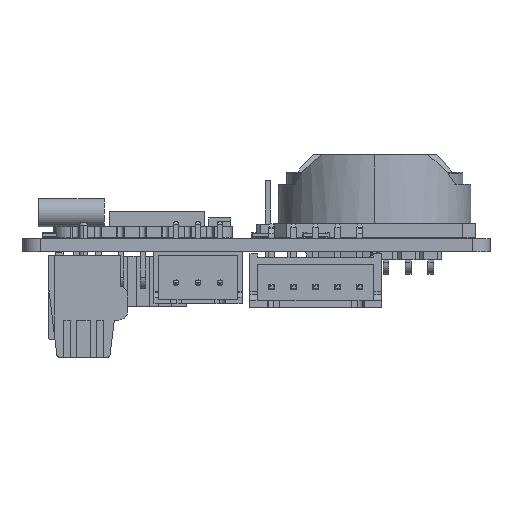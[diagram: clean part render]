
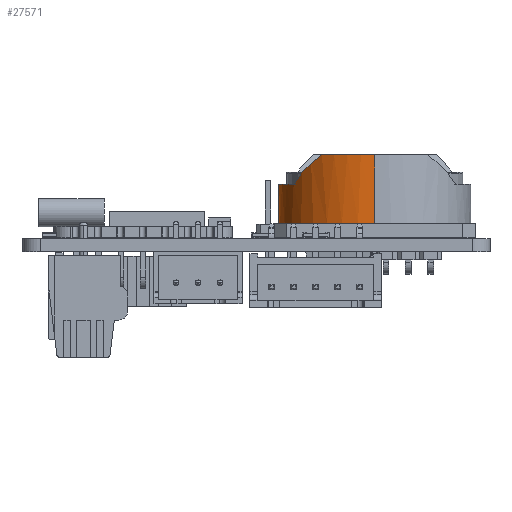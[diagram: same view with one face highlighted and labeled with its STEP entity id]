
A CAD part, left-side view. The second image highlights one B-rep face of the part: STEP entity #27571.
In plain terms, the highlighted cylindrical face has radius 10.9 mm (diameter 21.8 mm), a partial arc.
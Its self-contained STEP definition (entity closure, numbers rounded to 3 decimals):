
#27503 = VERTEX_POINT('',#27504);
#27504 = CARTESIAN_POINT('',(-8.682,3.89,-9.41));
#27510 = EDGE_CURVE('',#27503,#27511,#27513,.T.);
#27511 = VERTEX_POINT('',#27512);
#27512 = CARTESIAN_POINT('',(-6.891,6.957,-9.41));
#27513 = CIRCLE('',#27514,10.9);
#27514 = AXIS2_PLACEMENT_3D('',#27515,#27516,#27517);
#27515 = CARTESIAN_POINT('',(1.5,0.,-9.41));
#27516 = DIRECTION('',(0.,0.,-1.));
#27517 = DIRECTION('',(-1.,0.,0.));
#27571 = ADVANCED_FACE('',(#27572),#27634,.T.);
#27572 = FACE_BOUND('',#27573,.T.);
#27573 = EDGE_LOOP('',(#27574,#27584,#27593,#27602,#27611,#27618,#27619,
    #27627));
#27574 = ORIENTED_EDGE('',*,*,#27575,.T.);
#27575 = EDGE_CURVE('',#27576,#27578,#27580,.T.);
#27576 = VERTEX_POINT('',#27577);
#27577 = CARTESIAN_POINT('',(12.4,0.,-1.61));
#27578 = VERTEX_POINT('',#27579);
#27579 = CARTESIAN_POINT('',(12.4,0.,-9.41));
#27580 = LINE('',#27581,#27582);
#27581 = CARTESIAN_POINT('',(12.4,0.,-1.61));
#27582 = VECTOR('',#27583,1.);
#27583 = DIRECTION('',(-0.,-0.,-1.));
#27584 = ORIENTED_EDGE('',*,*,#27585,.F.);
#27585 = EDGE_CURVE('',#27586,#27578,#27588,.T.);
#27586 = VERTEX_POINT('',#27587);
#27587 = CARTESIAN_POINT('',(10.609,5.987,-9.41));
#27588 = CIRCLE('',#27589,10.9);
#27589 = AXIS2_PLACEMENT_3D('',#27590,#27591,#27592);
#27590 = CARTESIAN_POINT('',(1.5,0.,-9.41));
#27591 = DIRECTION('',(0.,0.,-1.));
#27592 = DIRECTION('',(-1.,0.,0.));
#27593 = ORIENTED_EDGE('',*,*,#27594,.T.);
#27594 = EDGE_CURVE('',#27586,#27595,#27597,.T.);
#27595 = VERTEX_POINT('',#27596);
#27596 = CARTESIAN_POINT('',(7.359,9.191,-6.1));
#27597 = ELLIPSE('',#27598,15.558,10.9);
#27598 = AXIS2_PLACEMENT_3D('',#27599,#27600,#27601);
#27599 = CARTESIAN_POINT('',(1.5,0.,-0.133));
#27600 = DIRECTION('',(0.714,0.,0.701));
#27601 = DIRECTION('',(-0.701,0.,0.714));
#27602 = ORIENTED_EDGE('',*,*,#27603,.T.);
#27603 = EDGE_CURVE('',#27595,#27604,#27606,.T.);
#27604 = VERTEX_POINT('',#27605);
#27605 = CARTESIAN_POINT('',(-3.641,9.611,-6.1));
#27606 = CIRCLE('',#27607,10.9);
#27607 = AXIS2_PLACEMENT_3D('',#27608,#27609,#27610);
#27608 = CARTESIAN_POINT('',(1.5,0.,-6.1));
#27609 = DIRECTION('',(0.,0.,1.));
#27610 = DIRECTION('',(1.,0.,-0.));
#27611 = ORIENTED_EDGE('',*,*,#27612,.T.);
#27612 = EDGE_CURVE('',#27604,#27511,#27613,.T.);
#27613 = ELLIPSE('',#27614,15.558,10.9);
#27614 = AXIS2_PLACEMENT_3D('',#27615,#27616,#27617);
#27615 = CARTESIAN_POINT('',(1.5,0.,-0.864));
#27616 = DIRECTION('',(-0.714,0.,0.701));
#27617 = DIRECTION('',(0.701,0.,0.714));
#27618 = ORIENTED_EDGE('',*,*,#27510,.F.);
#27619 = ORIENTED_EDGE('',*,*,#27620,.F.);
#27620 = EDGE_CURVE('',#27621,#27503,#27623,.T.);
#27621 = VERTEX_POINT('',#27622);
#27622 = CARTESIAN_POINT('',(-8.682,3.89,-1.61));
#27623 = LINE('',#27624,#27625);
#27624 = CARTESIAN_POINT('',(-8.682,3.89,-1.61));
#27625 = VECTOR('',#27626,1.);
#27626 = DIRECTION('',(0.,0.,-1.));
#27627 = ORIENTED_EDGE('',*,*,#27628,.T.);
#27628 = EDGE_CURVE('',#27621,#27576,#27629,.T.);
#27629 = CIRCLE('',#27630,10.9);
#27630 = AXIS2_PLACEMENT_3D('',#27631,#27632,#27633);
#27631 = CARTESIAN_POINT('',(1.5,0.,-1.61));
#27632 = DIRECTION('',(0.,0.,-1.));
#27633 = DIRECTION('',(-1.,0.,0.));
#27634 = CYLINDRICAL_SURFACE('',#27635,10.9);
#27635 = AXIS2_PLACEMENT_3D('',#27636,#27637,#27638);
#27636 = CARTESIAN_POINT('',(1.5,0.,-9.41));
#27637 = DIRECTION('',(0.,0.,1.));
#27638 = DIRECTION('',(1.,0.,-0.));
